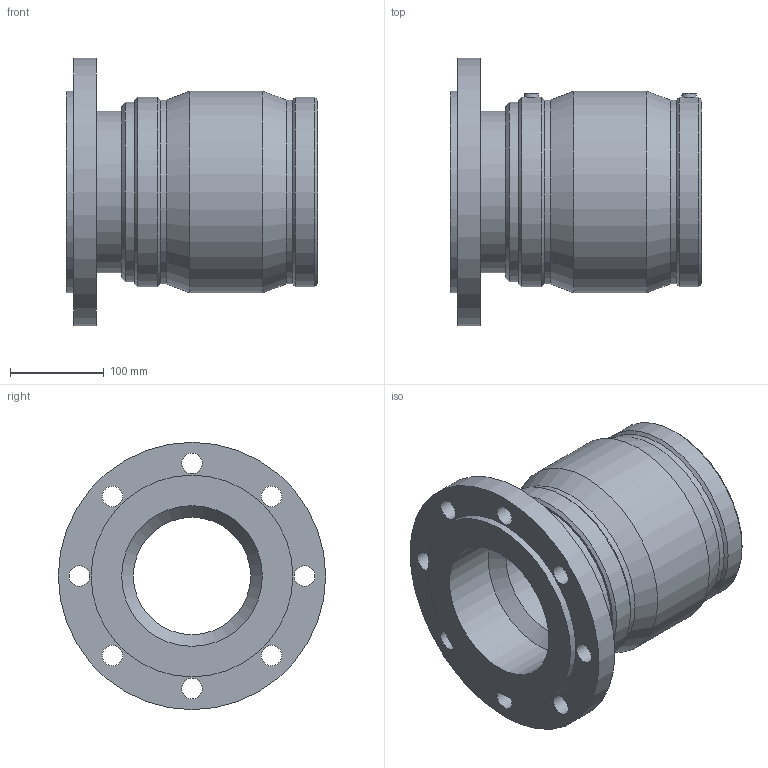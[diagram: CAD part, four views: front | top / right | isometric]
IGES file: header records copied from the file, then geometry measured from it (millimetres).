
Global section: file name: 497704160.ipt; native system: Autodesk Inventor 2015; preprocessor: unknown; author: KIM; date: 20180502.162029; units: millimetre
Bounding box: 268 x 285 x 285 mm (x, y, z)
Volume: 5006974.4 mm3; surface area: 445407 mm2
Topology: 1 solids, 2 shells, 55 faces, 121 edges, 80 vertices
Faces by surface type: revolution 17, plane 16, cylinder 13, cone 9
Full cylindrical faces by diameter (mm): 4 x2, 160 x2, 172.215 x1, 191.35 x1, 196.037 x2, 202.1 x2, 215 x2, 285 x1
